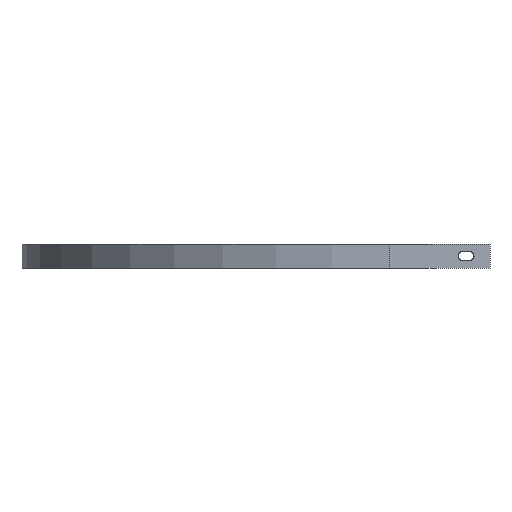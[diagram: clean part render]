
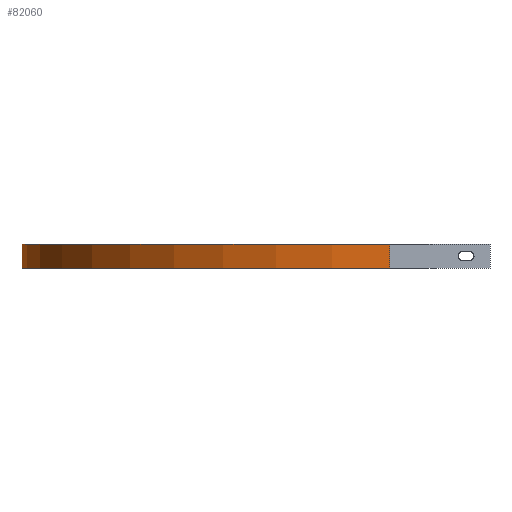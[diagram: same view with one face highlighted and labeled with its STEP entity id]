
A CAD part, left-side view. The second image highlights one B-rep face of the part: STEP entity #82060.
In plain terms, the highlighted cylindrical face has radius 460 mm (diameter 920 mm), a partial arc.
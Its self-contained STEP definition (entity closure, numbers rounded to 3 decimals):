
#80010=CARTESIAN_POINT('',(-460.,0.,-30.));
#80020=VERTEX_POINT('',#80010);
#80410=CARTESIAN_POINT('',(0.,460.,-30.));
#80420=VERTEX_POINT('',#80410);
#80450=CARTESIAN_POINT('',(0.,0.,-30.));
#80460=DIRECTION('',(0.,0.,1.));
#80470=DIRECTION('',(1.,0.,0.));
#80480=AXIS2_PLACEMENT_3D('',#80450,#80460,#80470);
#80490=CIRCLE('',#80480,460.);
#80500=EDGE_CURVE('',#80420,#80020,#80490,.T.);
#80600=CARTESIAN_POINT('',(0.,0.,0.));
#80610=DIRECTION('',(0.,0.,1.));
#80620=DIRECTION('',(1.,0.,0.));
#80630=AXIS2_PLACEMENT_3D('',#80600,#80610,#80620);
#80640=CIRCLE('',#80630,460.);
#80650=CARTESIAN_POINT('',(0.,460.,0.));
#80660=VERTEX_POINT('',#80650);
#80670=CARTESIAN_POINT('',(-460.,0.,0.));
#80680=VERTEX_POINT('',#80670);
#80690=EDGE_CURVE('',#80660,#80680,#80640,.T.);
#81430=CARTESIAN_POINT('',(0.,460.,0.));
#81440=DIRECTION('',(0.,0.,-1.));
#81450=VECTOR('',#81440,1.);
#81460=LINE('',#81430,#81450);
#81470=EDGE_CURVE('',#80660,#80420,#81460,.T.);
#81900=CARTESIAN_POINT('',(0.,0.,0.));
#81910=DIRECTION('',(0.,0.,1.));
#81920=DIRECTION('',(1.,0.,0.));
#81930=AXIS2_PLACEMENT_3D('',#81900,#81910,#81920);
#81940=CYLINDRICAL_SURFACE('',#81930,460.);
#81950=ORIENTED_EDGE('',*,*,#80690,.F.);
#81960=CARTESIAN_POINT('',(-460.,0.,0.));
#81970=DIRECTION('',(0.,0.,-1.));
#81980=VECTOR('',#81970,1.);
#81990=LINE('',#81960,#81980);
#82000=EDGE_CURVE('',#80680,#80020,#81990,.T.);
#82010=ORIENTED_EDGE('',*,*,#82000,.F.);
#82020=ORIENTED_EDGE('',*,*,#80500,.T.);
#82030=ORIENTED_EDGE('',*,*,#81470,.T.);
#82040=EDGE_LOOP('',(#82030,#82020,#82010,#81950));
#82050=FACE_OUTER_BOUND('',#82040,.T.);
#82060=ADVANCED_FACE('',(#82050),#81940,.T.);
